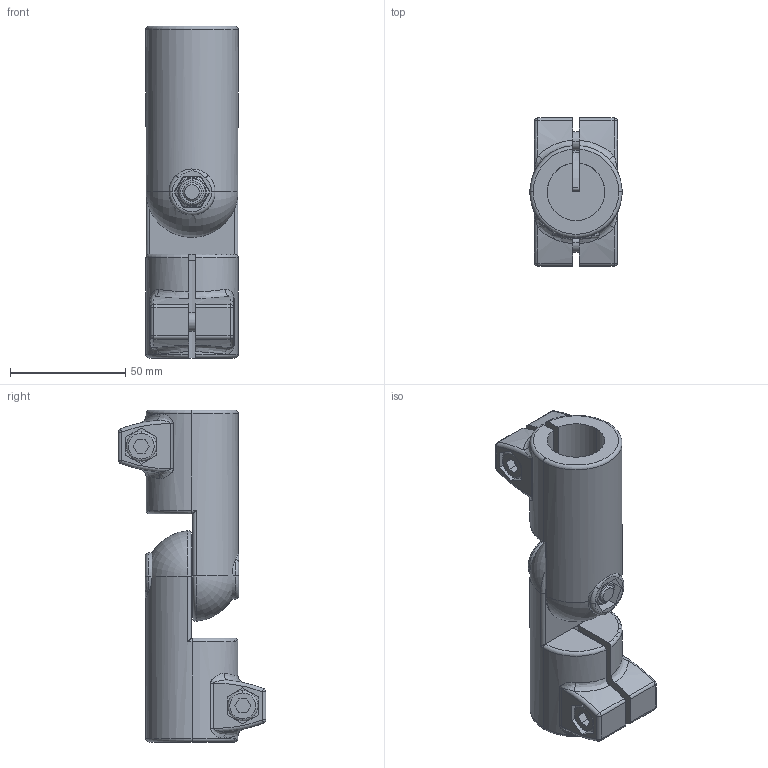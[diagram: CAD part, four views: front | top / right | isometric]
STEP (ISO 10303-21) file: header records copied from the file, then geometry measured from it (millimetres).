
FILE_DESCRIPTION (( 'STEP AP214' ), '1' );
FILE_NAME ('286-B25-B25-T-2-BL.step', '2021-12-02T12:13:29', ( '' ), ( '' ), 'SwSTEP 2.0', 'SolidWorks 2019', '' );
FILE_SCHEMA (( 'AUTOMOTIVE_DESIGN' ));
Length unit declared in the file: millimetre
Products named in the file (3): 286-B25-B25-T-2-BL; WB276_1^WB286_B25-AV-2-BL; WB276^WB286_B25-IV-2-BL
Assembly tree (2 placements, depth 2):
  286-B25-B25-T-2-BL
    WB276^WB286_B25-IV-2-BL
    WB276_1^WB286_B25-AV-2-BL
Bounding box: 40 x 64 x 144 mm (x, y, z)
Volume: 134531.7 mm3; surface area: 43675 mm2
Topology: 2 solids, 2 shells, 514 faces, 1304 edges, 814 vertices
Faces by surface type: plane 304, cylinder 108, torus 50, cone 24, bspline 20, sphere 8
Entity records: 19158 total; most frequent: CARTESIAN_POINT 5891, ORIENTED_EDGE 2592, DIRECTION 2422, EDGE_CURVE 1296, AXIS2_PLACEMENT_3D 931, VERTEX_POINT 814, VECTOR 560, LINE 560
